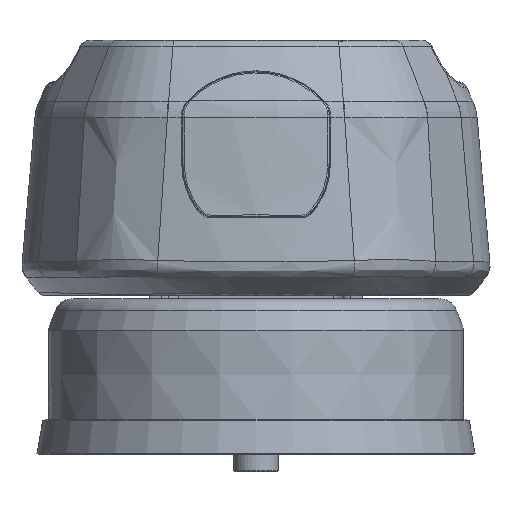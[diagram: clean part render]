
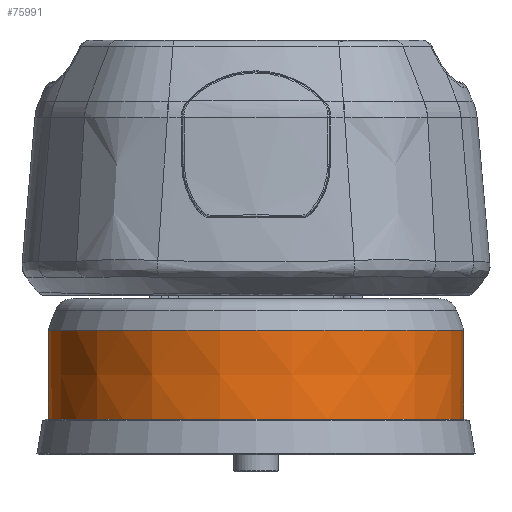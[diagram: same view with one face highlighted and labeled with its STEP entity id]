
A CAD part, front view. The second image highlights one B-rep face of the part: STEP entity #75991.
In plain terms, the highlighted conical face has half-angle 0.181 degrees and reference radius 60.168 mm.
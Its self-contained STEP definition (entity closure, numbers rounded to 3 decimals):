
#1450 = VECTOR ( 'NONE', #103583, 1000. ) ;
#1933 = EDGE_CURVE ( 'NONE', #77510, #30067, #85882, .T. ) ;
#8897 = EDGE_CURVE ( 'NONE', #92146, #77510, #24619, .T. ) ;
#10822 = CARTESIAN_POINT ( 'NONE',  ( 60.25, 3., 22.95 ) ) ;
#13261 = CARTESIAN_POINT ( 'NONE',  ( 60.168, 3., -2.85 ) ) ;
#14023 = CARTESIAN_POINT ( 'NONE',  ( 0., 3., 22.95 ) ) ;
#14253 = CARTESIAN_POINT ( 'NONE',  ( 0., 3., -2.85 ) ) ;
#15130 = VERTEX_POINT ( 'NONE', #13261 ) ;
#16774 = AXIS2_PLACEMENT_3D ( 'NONE', #14023, #62834, #80080 ) ;
#18823 = CONICAL_SURFACE ( 'NONE', #55097, 60.168, 0.003 ) ;
#24619 = LINE ( 'NONE', #91718, #31227 ) ;
#27770 = CARTESIAN_POINT ( 'NONE',  ( 60.168, 3., -2.85 ) ) ;
#30067 = VERTEX_POINT ( 'NONE', #10822 ) ;
#31227 = VECTOR ( 'NONE', #74403, 1000. ) ;
#35697 = ORIENTED_EDGE ( 'NONE', *, *, #8897, .F. ) ;
#37477 = LINE ( 'NONE', #27770, #1450 ) ;
#39501 = CARTESIAN_POINT ( 'NONE',  ( -60.168, 3., -2.85 ) ) ;
#40269 = CARTESIAN_POINT ( 'NONE',  ( 0., 3., -2.85 ) ) ;
#40808 = FACE_OUTER_BOUND ( 'NONE', #61287, .T. ) ;
#48812 = AXIS2_PLACEMENT_3D ( 'NONE', #14253, #90047, #105294 ) ;
#49629 = EDGE_CURVE ( 'NONE', #92146, #15130, #52245, .T. ) ;
#49947 = ORIENTED_EDGE ( 'NONE', *, *, #75394, .T. ) ;
#52245 = CIRCLE ( 'NONE', #48812, 60.168 ) ;
#55097 = AXIS2_PLACEMENT_3D ( 'NONE', #40269, #88455, #98782 ) ;
#61287 = EDGE_LOOP ( 'NONE', ( #35697, #91763, #49947, #103357 ) ) ;
#62834 = DIRECTION ( 'NONE',  ( 0., 0., 1. ) ) ;
#70811 = CARTESIAN_POINT ( 'NONE',  ( -60.25, 3., 22.95 ) ) ;
#74403 = DIRECTION ( 'NONE',  ( -0.003, 0., 1. ) ) ;
#75394 = EDGE_CURVE ( 'NONE', #15130, #30067, #37477, .T. ) ;
#75991 = ADVANCED_FACE ( 'NONE', ( #40808 ), #18823, .T. ) ;
#77510 = VERTEX_POINT ( 'NONE', #70811 ) ;
#80080 = DIRECTION ( 'NONE',  ( 1., 0., 0. ) ) ;
#85882 = CIRCLE ( 'NONE', #16774, 60.25 ) ;
#88455 = DIRECTION ( 'NONE',  ( 0., 0., 1. ) ) ;
#90047 = DIRECTION ( 'NONE',  ( 0., 0., 1. ) ) ;
#91718 = CARTESIAN_POINT ( 'NONE',  ( -60.168, 3., -2.85 ) ) ;
#91763 = ORIENTED_EDGE ( 'NONE', *, *, #49629, .T. ) ;
#92146 = VERTEX_POINT ( 'NONE', #39501 ) ;
#98782 = DIRECTION ( 'NONE',  ( 1., 0., 0. ) ) ;
#103357 = ORIENTED_EDGE ( 'NONE', *, *, #1933, .F. ) ;
#103583 = DIRECTION ( 'NONE',  ( 0.003, 0., 1. ) ) ;
#105294 = DIRECTION ( 'NONE',  ( 1., 0., 0. ) ) ;
